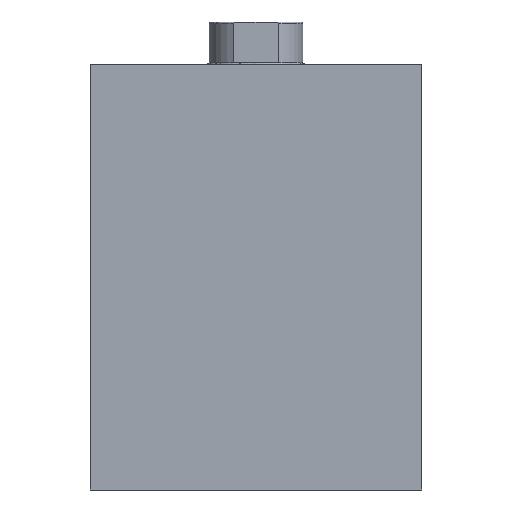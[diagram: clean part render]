
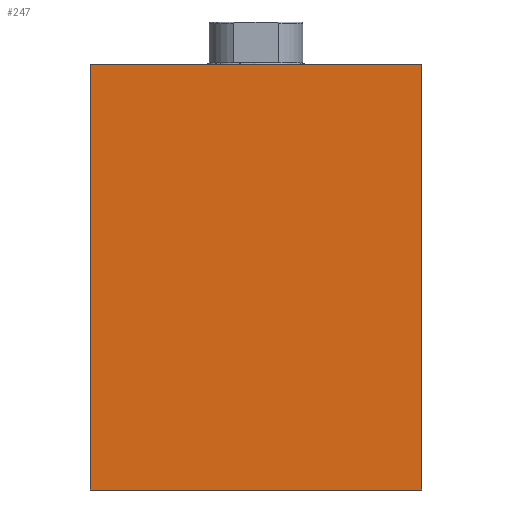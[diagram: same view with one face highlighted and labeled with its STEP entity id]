
A CAD part, left-side view. The second image highlights one B-rep face of the part: STEP entity #247.
In plain terms, the highlighted planar face has unit normal (-1, 0, 0) as drawn and (0, 0, -1) by its records, which use the part's own axes.
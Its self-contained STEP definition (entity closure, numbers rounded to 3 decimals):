
#247 = ADVANCED_FACE( '', ( #338 ), #339, .F. );
#338 = FACE_OUTER_BOUND( '', #554, .T. );
#339 = PLANE( '', #555 );
#554 = EDGE_LOOP( '', ( #789, #790, #791, #792 ) );
#555 = AXIS2_PLACEMENT_3D( '', #793, #794, #795 );
#789 = ORIENTED_EDGE( '', *, *, #1166, .T. );
#790 = ORIENTED_EDGE( '', *, *, #1183, .F. );
#791 = ORIENTED_EDGE( '', *, *, #1178, .F. );
#792 = ORIENTED_EDGE( '', *, *, #1182, .T. );
#793 = CARTESIAN_POINT( '', ( 109., -42.5, -31.5 ) );
#794 = DIRECTION( '', ( 0., 0., 1. ) );
#795 = DIRECTION( '', ( 1., 0., 0. ) );
#1166 = EDGE_CURVE( '', #1267, #1265, #1268, .T. );
#1178 = EDGE_CURVE( '', #1287, #1289, #1290, .T. );
#1182 = EDGE_CURVE( '', #1287, #1267, #1296, .T. );
#1183 = EDGE_CURVE( '', #1289, #1265, #1297, .T. );
#1265 = VERTEX_POINT( '', #1510 );
#1267 = VERTEX_POINT( '', #1513 );
#1268 = LINE( '', #1514, #1515 );
#1287 = VERTEX_POINT( '', #1706 );
#1289 = VERTEX_POINT( '', #1709 );
#1290 = LINE( '', #1710, #1711 );
#1296 = B_SPLINE_CURVE_WITH_KNOTS( '', 1, ( #1784, #1785 ), .UNSPECIFIED., .F., .F., ( 2, 2 ), ( 0., 1. ), .UNSPECIFIED. );
#1297 = B_SPLINE_CURVE_WITH_KNOTS( '', 1, ( #1786, #1787 ), .UNSPECIFIED., .F., .F., ( 2, 2 ), ( 0., 1. ), .UNSPECIFIED. );
#1510 = CARTESIAN_POINT( '', ( 0., 42.5, -31.5 ) );
#1513 = CARTESIAN_POINT( '', ( 0., -42.5, -31.5 ) );
#1514 = CARTESIAN_POINT( '', ( 0., -42.5, -31.5 ) );
#1515 = VECTOR( '', #4022, 1000. );
#1706 = CARTESIAN_POINT( '', ( 109., -42.5, -31.5 ) );
#1709 = CARTESIAN_POINT( '', ( 109., 42.5, -31.5 ) );
#1710 = CARTESIAN_POINT( '', ( 109., -42.5, -31.5 ) );
#1711 = VECTOR( '', #4029, 1000. );
#1784 = CARTESIAN_POINT( '', ( 109., -42.5, -31.5 ) );
#1785 = CARTESIAN_POINT( '', ( 0., -42.5, -31.5 ) );
#1786 = CARTESIAN_POINT( '', ( 109., 42.5, -31.5 ) );
#1787 = CARTESIAN_POINT( '', ( 0., 42.5, -31.5 ) );
#4022 = DIRECTION( '', ( 0., 1., 0. ) );
#4029 = DIRECTION( '', ( 0., 1., 0. ) );
